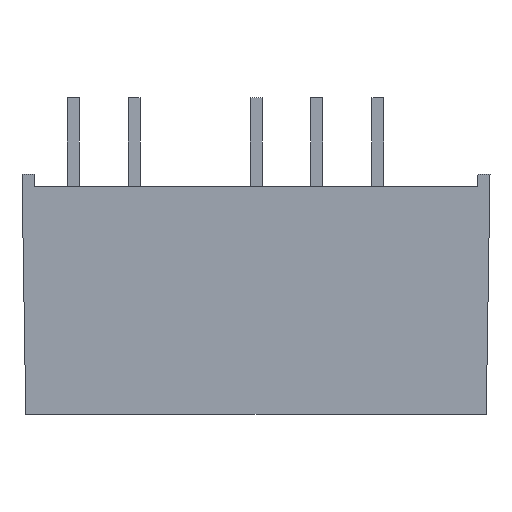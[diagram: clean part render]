
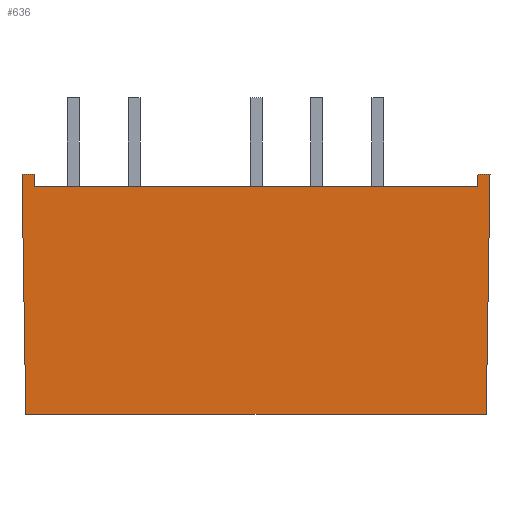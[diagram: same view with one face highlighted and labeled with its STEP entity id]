
A CAD part, front view. The second image highlights one B-rep face of the part: STEP entity #636.
In plain terms, the highlighted planar face has unit normal (0, -1, -0.016).
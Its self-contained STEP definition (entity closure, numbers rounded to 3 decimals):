
#50=FACE_OUTER_BOUND('',#90,.T.);
#90=EDGE_LOOP('',(#543,#544,#545,#546,#547,#548,#549,#550));
#158=LINE('',#968,#242);
#161=LINE('',#974,#245);
#162=LINE('',#977,#246);
#167=LINE('',#986,#251);
#168=LINE('',#989,#252);
#171=LINE('',#995,#255);
#172=LINE('',#997,#256);
#173=LINE('',#998,#257);
#242=VECTOR('',#795,18.484);
#245=VECTOR('',#800,0.5);
#246=VECTOR('',#803,0.5);
#251=VECTOR('',#810,0.5);
#252=VECTOR('',#813,0.5);
#255=VECTOR('',#818,10.002);
#256=VECTOR('',#819,19.186);
#257=VECTOR('',#820,10.002);
#303=VERTEX_POINT('',#961);
#306=VERTEX_POINT('',#966);
#308=VERTEX_POINT('',#972);
#309=VERTEX_POINT('',#976);
#312=VERTEX_POINT('',#984);
#313=VERTEX_POINT('',#988);
#315=VERTEX_POINT('',#994);
#316=VERTEX_POINT('',#996);
#382=EDGE_CURVE('',#303,#306,#158,.T.);
#385=EDGE_CURVE('',#306,#308,#161,.T.);
#386=EDGE_CURVE('',#309,#303,#162,.T.);
#391=EDGE_CURVE('',#308,#312,#167,.T.);
#392=EDGE_CURVE('',#313,#309,#168,.T.);
#395=EDGE_CURVE('',#315,#312,#171,.F.);
#396=EDGE_CURVE('',#315,#316,#172,.F.);
#397=EDGE_CURVE('',#316,#313,#173,.T.);
#543=ORIENTED_EDGE('',*,*,#386,.T.);
#544=ORIENTED_EDGE('',*,*,#382,.T.);
#545=ORIENTED_EDGE('',*,*,#385,.T.);
#546=ORIENTED_EDGE('',*,*,#391,.T.);
#547=ORIENTED_EDGE('',*,*,#395,.F.);
#548=ORIENTED_EDGE('',*,*,#396,.T.);
#549=ORIENTED_EDGE('',*,*,#397,.T.);
#550=ORIENTED_EDGE('',*,*,#392,.T.);
#601=PLANE('',#673);
#636=ADVANCED_FACE('',(#50),#601,.T.);
#673=AXIS2_PLACEMENT_3D('',#993,#816,#817);
#795=DIRECTION('',(-1.,0.,0.));
#800=DIRECTION('',(-0.016,-0.016,1.));
#803=DIRECTION('',(-0.016,0.016,-1.));
#810=DIRECTION('',(-1.,0.,0.));
#813=DIRECTION('',(-1.,0.,0.));
#816=DIRECTION('center_axis',(0.,-1.,-0.016));
#817=DIRECTION('ref_axis',(0.,0.016,-1.));
#818=DIRECTION('',(0.016,0.016,-1.));
#819=DIRECTION('',(-1.,0.,0.));
#820=DIRECTION('',(0.016,-0.016,1.));
#961=CARTESIAN_POINT('',(9.242,-3.792,9.5));
#966=CARTESIAN_POINT('',(-9.242,-3.792,9.5));
#968=CARTESIAN_POINT('',(4.875,-3.792,9.5));
#972=CARTESIAN_POINT('',(-9.25,-3.8,10.));
#974=CARTESIAN_POINT('',(-9.168,-3.718,4.793));
#976=CARTESIAN_POINT('',(9.25,-3.8,10.));
#977=CARTESIAN_POINT('',(9.172,-3.722,5.006));
#984=CARTESIAN_POINT('',(-9.75,-3.8,10.));
#986=CARTESIAN_POINT('',(-9.75,-3.8,10.));
#988=CARTESIAN_POINT('',(9.75,-3.8,10.));
#989=CARTESIAN_POINT('',(-9.75,-3.8,10.));
#993=CARTESIAN_POINT('Origin',(9.75,-3.643,0.001));
#994=CARTESIAN_POINT('',(-9.593,-3.643,0.));
#995=CARTESIAN_POINT('',(-9.591,-3.641,-0.149));
#996=CARTESIAN_POINT('',(9.593,-3.643,0.));
#997=CARTESIAN_POINT('',(4.875,-3.643,0.));
#998=CARTESIAN_POINT('',(9.592,-3.642,-0.056));
